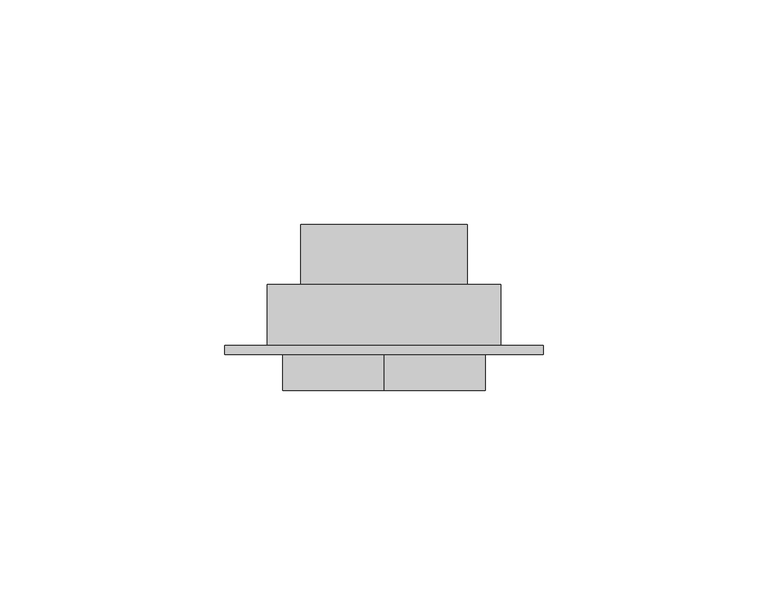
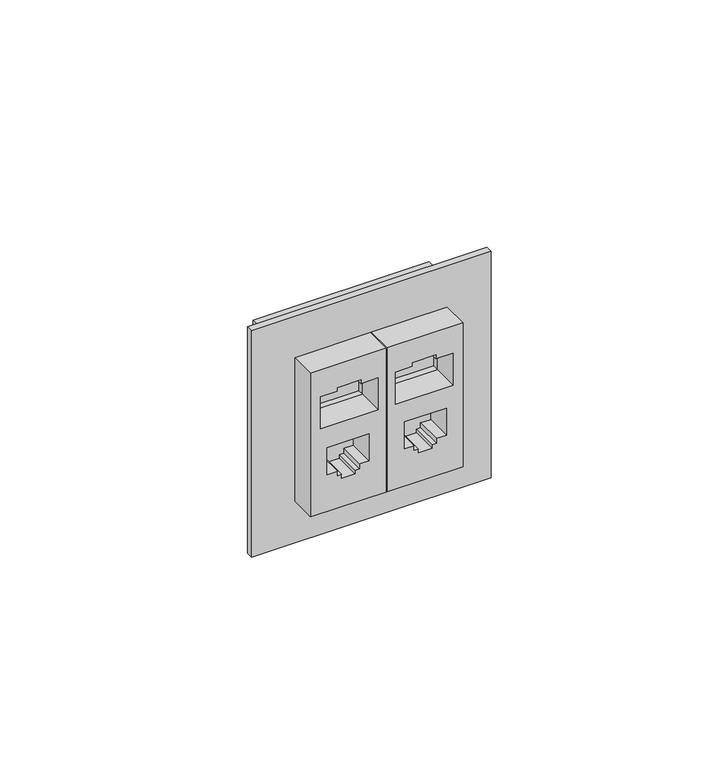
"""IFC4 building model written with IfcOpenShell, lengths in millimetres: proxy geometry."""

import ifcopenshell
import ifcopenshell.guid

model = None  # the IFC model being written
_history = None  # IfcOwnerHistory: only IFC2X3 demands one
_inside = {}  # id of a spatial element -> (the spatial element, [elements in it])
_under = {}  # id of a project, library or spatial element -> (it, [spatial elements below it])
_declared = {}  # id of a project -> (the project, [libraries it declares])
_typed = {}  # id of a type object -> (the type object, [elements of that type])
_made_of = {}  # id of a material, layer set ... -> (it, [elements and type objects made of it])


def new_model(schema):
    """Start an empty IFC model of exactly this schema.

    Asked for "IFC4X3", IfcOpenShell would pick the latest addendum, in which some entities
    have other attributes; the version numbers below select the first issue.
    IFC2X3 requires an IfcOwnerHistory on every rooted entity: one is made here for all.
    """
    global model, _history
    if schema == "IFC4X3":
        model = ifcopenshell.file(schema_version=(4, 3, 0, 0))
    else:
        model = ifcopenshell.file(schema=schema)
    _inside.clear()
    _under.clear()
    _declared.clear()
    _typed.clear()
    _made_of.clear()
    _history = None
    if model.schema == "IFC2X3":
        org = make("IfcOrganization", Name="unknown")
        user = make(
            "IfcPersonAndOrganization",
            ThePerson=make("IfcPerson", FamilyName="unknown"),
            TheOrganization=org,
        )
        app = make(
            "IfcApplication",
            ApplicationDeveloper=org,
            Version="unknown",
            ApplicationFullName="unknown",
            ApplicationIdentifier="unknown",
        )
        _history = make(
            "IfcOwnerHistory",
            OwningUser=user,
            OwningApplication=app,
            ChangeAction="ADDED",
            CreationDate=0,
        )
    return model


def make(cls, **values):
    """One entity of the class cls with the attributes given. An attribute that is None is left unset."""
    return model.create_entity(
        cls, **{name: value for name, value in values.items() if value is not None}
    )


def rooted(cls, **values):
    """An entity with a GlobalId (a new one), such as an element, a storey or a relation."""
    return make(cls, GlobalId=ifcopenshell.guid.new(), OwnerHistory=_history, **values)


def si_unit(unit_type, name, prefix=None):
    """IfcSIUnit, for example si_unit("LENGTHUNIT", "METRE", prefix="MILLI")."""
    return make("IfcSIUnit", UnitType=unit_type, Prefix=prefix, Name=name)


def assignment(units):
    """IfcUnitAssignment: the units of a project."""
    return None if units is None else make("IfcUnitAssignment", Units=units)


def point(xyz):
    """IfcCartesianPoint."""
    return None if xyz is None else make("IfcCartesianPoint", Coordinates=xyz)


def direction(xyz):
    """IfcDirection."""
    return None if xyz is None else make("IfcDirection", DirectionRatios=xyz)


def frame(location, z_axis=None, x_axis=None):
    """IfcAxis2Placement3D, a coordinate frame: its origin and axes. An axis left out is left unset."""
    return make(
        "IfcAxis2Placement3D",
        Location=point(location),
        Axis=direction(z_axis),
        RefDirection=direction(x_axis),
    )


def origin():
    """The frame at (0, 0, 0) with its axes left unset."""
    return frame((0.0, 0.0, 0.0))


def place(relative_to, where):
    """IfcLocalPlacement: puts the frame where relative to a parent placement (None: the world)."""
    return make(
        "IfcLocalPlacement", PlacementRelTo=relative_to, RelativePlacement=where
    )


def context(
    kind, dimensions, precision=None, world=None, true_north=None, identifier=None
):
    """IfcGeometricRepresentationContext, for example the 3D "Model" context."""
    return make(
        "IfcGeometricRepresentationContext",
        ContextIdentifier=identifier,
        ContextType=kind,
        CoordinateSpaceDimension=dimensions,
        Precision=precision,
        WorldCoordinateSystem=world,
        TrueNorth=true_north,
    )


def project(units=None, contexts=None):
    """IfcProject with its units and contexts."""
    return rooted(
        "IfcProject",
        Name="project",
        RepresentationContexts=contexts,
        UnitsInContext=assignment(units),
    )


def spatial(cls, under=None, at=None, **own):
    """A site, building, storey or space (cls), placed at a placement, below another one or the project."""
    s = rooted(cls, ObjectPlacement=at, **own)
    if under is not None:
        _under.setdefault(under.id(), (under, []))[1].append(s)
    return s


def polyline(points):
    """IfcPolyline through the points."""
    return make("IfcPolyline", Points=[point(p) for p in points])


def outline(outer, holes=None, kind="AREA"):
    """IfcArbitraryClosedProfileDef: a profile drawn as a closed curve; with holes, ...WithVoids."""
    if holes is None:
        return make("IfcArbitraryClosedProfileDef", ProfileType=kind, OuterCurve=outer)
    return make(
        "IfcArbitraryProfileDefWithVoids",
        ProfileType=kind,
        OuterCurve=outer,
        InnerCurves=holes,
    )


def extrude(swept, where, along, depth):
    """IfcExtrudedAreaSolid: the profile swept, set in the frame where, extruded along a direction by depth."""
    return make(
        "IfcExtrudedAreaSolid",
        SweptArea=swept,
        Position=where,
        ExtrudedDirection=direction(along),
        Depth=depth,
    )


def faces_of(points, faces, orient=None, outer=None):
    """IfcFace entities. A face is a list of loops; a loop is a list of indices into points, from 0.

    orient and outer hold one flag for each loop. By default every Orientation is true, the
    first loop of a face is its IfcFaceOuterBound and the others are IfcFaceBound.
    """
    made = []
    for i, loops in enumerate(faces):
        bounds = []
        for j, loop in enumerate(loops):
            is_outer = j == 0 if outer is None else outer[i][j]
            bounds.append(
                make(
                    "IfcFaceOuterBound" if is_outer else "IfcFaceBound",
                    Bound=make("IfcPolyLoop", Polygon=[points[k] for k in loop]),
                    Orientation=True if orient is None else orient[i][j],
                )
            )
        made.append(make("IfcFace", Bounds=bounds))
    return made


def faceted_brep(points, faces, orient=None, outer=None, voids=None):
    """IfcFacetedBrep: a solid bounded by flat faces; with voids (closed shells), ...WithVoids."""
    shared = [point(p) for p in points]
    hull = make("IfcClosedShell", CfsFaces=faces_of(shared, faces, orient, outer))
    if voids is None:
        return make("IfcFacetedBrep", Outer=hull)
    return make(
        "IfcFacetedBrepWithVoids",
        Outer=hull,
        Voids=[
            make(cls, CfsFaces=faces_of(shared, fs, o, b)) for cls, fs, o, b in voids
        ],
    )


def shape(context_of_items, identifier, shape_type, items):
    """IfcShapeRepresentation: the items that make up one representation, for example the "Body"."""
    return make(
        "IfcShapeRepresentation",
        ContextOfItems=context_of_items,
        RepresentationIdentifier=identifier,
        RepresentationType=shape_type,
        Items=items,
    )


def source(mapping_origin, context_of_items, identifier, shape_type, items):
    """IfcRepresentationMap: a shape defined once, which mapped items show again and again."""
    return make(
        "IfcRepresentationMap",
        MappingOrigin=mapping_origin,
        MappedRepresentation=shape(context_of_items, identifier, shape_type, items),
    )


def transform(
    local_origin,
    x_axis=None,
    y_axis=None,
    z_axis=None,
    scale=None,
    scale2=None,
    scale3=None,
    uniform=True,
):
    """IfcCartesianTransformationOperator3D, or its non-uniform kind. x_axis, y_axis, z_axis: its Axis1, 2, 3."""
    if uniform:
        return make(
            "IfcCartesianTransformationOperator3D",
            Axis1=direction(x_axis),
            Axis2=direction(y_axis),
            LocalOrigin=point(local_origin),
            Scale=scale,
            Axis3=direction(z_axis),
        )
    return make(
        "IfcCartesianTransformationOperator3DnonUniform",
        Axis1=direction(x_axis),
        Axis2=direction(y_axis),
        LocalOrigin=point(local_origin),
        Scale=scale,
        Axis3=direction(z_axis),
        Scale2=scale2,
        Scale3=scale3,
    )


def mapped(mapping_source, mapping_target):
    """IfcMappedItem: shows the shape of a source again, moved by a transform."""
    return make(
        "IfcMappedItem", MappingSource=mapping_source, MappingTarget=mapping_target
    )


def made_of(thing, what):
    """Note that an element or type object is made of a material, layer set ...; save() writes the relation."""
    if what is not None:
        _made_of.setdefault(what.id(), (what, []))[1].append(thing)
    return thing


def element(
    cls,
    number,
    at=None,
    inside=None,
    cuts=None,
    type_object=None,
    material=None,
    context=None,
    identifier="Body",
    shape_type=None,
    held_by="IfcProductDefinitionShape",
    body=None,
    shapes=None,
    **own,
):
    """One element of the class cls, such as IfcWall. Its Tag is "e" and its number.

    at: its placement. inside: the storey or other place that contains it. cuts: it is an
    opening in that element (IfcRelVoidsElement). A single representation is given by context,
    identifier, shape_type and body (its items); several are given by shapes. held_by: the class
    of the entity that holds the representations. save() writes the other relations.
    """
    e = rooted(cls, Tag="e%d" % number, ObjectPlacement=at, **own)
    if body is not None:
        shapes = [shape(context, identifier, shape_type, body)]
    if shapes is not None:
        e.Representation = make(held_by, Representations=shapes)
    if inside is not None:
        _inside.setdefault(inside.id(), (inside, []))[1].append(e)
    if cuts is not None:
        rooted(
            "IfcRelVoidsElement", RelatingBuildingElement=cuts, RelatedOpeningElement=e
        )
    if type_object is not None:
        _typed.setdefault(type_object.id(), (type_object, []))[1].append(e)
    return made_of(e, material)


def aggregate(whole, parts):
    """IfcRelAggregates: a whole, such as a stair, and the parts it consists of."""
    return rooted("IfcRelAggregates", RelatingObject=whole, RelatedObjects=parts)


def save(model, path):
    """Write the relations noted so far, then the file.

    IfcRelAggregates (storeys below a building ...), IfcRelContainedInSpatialStructure (elements
    in a storey), IfcRelDefinesByType, IfcRelAssociatesMaterial and IfcRelDeclares: one each for
    every whole, place, type object, material and project.
    """
    for whole, parts in _under.values():
        aggregate(whole, parts)
    for where, things in _inside.values():
        rooted(
            "IfcRelContainedInSpatialStructure",
            RelatedElements=things,
            RelatingStructure=where,
        )
    for kind, things in _typed.values():
        rooted("IfcRelDefinesByType", RelatedObjects=things, RelatingType=kind)
    for what, things in _made_of.values():
        rooted("IfcRelAssociatesMaterial", RelatedObjects=things, RelatingMaterial=what)
    for by, libraries in _declared.values():
        rooted("IfcRelDeclares", RelatingContext=by, RelatedDefinitions=libraries)
    model.write(path)


def electrical_fixtures_504ae2bb(model_context):
    return source(origin(), model_context, "Body", "SolidModel", [
        extrude(outline(polyline([(22.5, 0.0), (-22.5, 0.0), (-22.5, 22.5), (22.5, 22.5), (22.5, 0.0)]), holes=[polyline([(-10.97753, 5.2958415), (-2.538878, 5.2958415), (-2.538878, 17.6587753), (-10.97753, 17.6587753), (-10.97753, 14.6374966), (-12.4360784, 14.6374966), (-12.4360784, 13.3604874), (-13.6452738, 13.3604874), (-13.6452738, 9.3604874), (-12.4360784, 9.3604874), (-12.4360784, 8.0834782), (-10.97753, 8.0834782), (-10.97753, 5.2958415)]), polyline([(4.0, 19.6040808), (4.0, 2.6040808), (14.0, 2.6040808), (14.0, 7.6040808), (15.2, 7.6040808), (15.2, 14.6040808), (14.0, 14.6040808), (14.0, 19.6040808), (4.0, 19.6040808)])]), frame((0.0, -44.7, 0.0), z_axis=(0.0, 1.0, 0.0), x_axis=(0.0, 0.0, 1.0)), (0.0, 0.0, 1.0), 8.0),
        extrude(outline(polyline([(22.5, -22.5), (-22.5, -22.5), (-22.5, 0.0), (22.5, 0.0), (22.5, -22.5)]), holes=[polyline([(-2.538878, -5.2958415), (-10.97753, -5.2958415), (-10.97753, -8.0834782), (-12.4360784, -8.0834782), (-12.4360784, -9.3604874), (-13.6452738, -9.3604874), (-13.6452738, -13.3604874), (-12.4360784, -13.3604874), (-12.4360784, -14.6374966), (-10.97753, -14.6374966), (-10.97753, -17.6587753), (-2.538878, -17.6587753), (-2.538878, -5.2958415)]), polyline([(4.0, -2.6040808), (4.0, -19.6040808), (14.0, -19.6040808), (14.0, -14.6040808), (15.2, -14.6040808), (15.2, -7.6040808), (14.0, -7.6040808), (14.0, -2.6040808), (4.0, -2.6040808)])]), frame((0.0, -44.7, 0.0), z_axis=(0.0, 1.0, 0.0), x_axis=(0.0, 0.0, 1.0)), (0.0, 0.0, 1.0), 8.0),
        faceted_brep([(35.45, -34.7, -35.45), (-35.45, -34.7, -35.45), (-35.45, -34.7, 35.45), (35.45, -34.7, 35.45), (-26.0, -34.7, -26.0), (26.0, -34.7, -26.0), (26.0, -34.7, 26.0), (-26.0, -34.7, 26.0), (35.45, -36.7, -35.45), (35.45, -36.7, 35.45), (-35.45, -36.7, 35.45), (-35.45, -36.7, -35.45), (19.6040808, -36.7, 4.0), (2.6040808, -36.7, 4.0), (2.6040808, -36.7, 14.0), (7.6040808, -36.7, 14.0), (7.6040808, -36.7, 15.2), (14.6040808, -36.7, 15.2), (14.6040808, -36.7, 14.0), (19.6040808, -36.7, 14.0), (-2.6040808, -36.7, 4.0), (-19.6040808, -36.7, 4.0), (-19.6040808, -36.7, 14.0), (-14.6040808, -36.7, 14.0), (-14.6040808, -36.7, 15.2), (-7.6040808, -36.7, 15.2), (-7.6040808, -36.7, 14.0), (-2.6040808, -36.7, 14.0), (26.0, -21.2, -26.0), (-26.0, -21.2, -26.0), (-26.0, -21.2, 26.0), (26.0, -21.2, 26.0), (-18.5, -21.2, -15.5), (18.5, -21.2, -15.5), (18.5, -21.2, 4.0), (-18.5, -21.2, 4.0), (18.5, -7.8, -15.5), (-18.5, -7.8, -15.5), (-18.5, -7.8, 4.0), (18.5, -7.8, 4.0), (19.6040808, -34.7, 4.0), (19.6040808, -34.7, 14.0), (14.6040808, -34.7, 14.0), (14.6040808, -34.7, 15.2), (7.6040808, -34.7, 15.2), (7.6040808, -34.7, 14.0), (2.6040808, -34.7, 14.0), (2.6040808, -34.7, 4.0), (-19.6040808, -34.7, 4.0), (-2.6040808, -34.7, 4.0), (-2.6040808, -34.7, 14.0), (-7.6040808, -34.7, 14.0), (-7.6040808, -34.7, 15.2), (-14.6040808, -34.7, 15.2), (-14.6040808, -34.7, 14.0), (-19.6040808, -34.7, 14.0)], [[[0, 1, 2, 3], [4, 5, 6, 7]], [[8, 9, 10, 11], [12, 13, 14, 15, 16, 17, 18, 19], [20, 21, 22, 23, 24, 25, 26, 27]], [[1, 0, 8, 11]], [[2, 1, 11, 10]], [[3, 2, 10, 9]], [[0, 3, 9, 8]], [[28, 29, 30, 31], [32, 33, 34, 35]], [[29, 28, 5, 4]], [[30, 29, 4, 7]], [[31, 30, 7, 6]], [[28, 31, 6, 5]], [[36, 37, 38, 39]], [[37, 36, 33, 32]], [[38, 37, 32, 35]], [[39, 38, 35, 34]], [[36, 39, 34, 33]], [[40, 41, 42, 43, 44, 45, 46, 47]], [[40, 47, 13, 12]], [[47, 46, 14, 13]], [[46, 45, 15, 14]], [[45, 44, 16, 15]], [[44, 43, 17, 16]], [[43, 42, 18, 17]], [[42, 41, 19, 18]], [[41, 40, 12, 19]], [[48, 49, 50, 51, 52, 53, 54, 55]], [[49, 48, 21, 20]], [[50, 49, 20, 27]], [[51, 50, 27, 26]], [[52, 51, 26, 25]], [[53, 52, 25, 24]], [[54, 53, 24, 23]], [[55, 54, 23, 22]], [[48, 55, 22, 21]]]),
    ])


if __name__ == "__main__":
    model = new_model("IFC4")
    model_context = context("Model", 3, world=origin())
    ifc_project = project(units=[si_unit("LENGTHUNIT", "METRE", prefix="MILLI")], contexts=[model_context])
    site = spatial("IfcSite", under=ifc_project)
    building = spatial("IfcBuilding", under=site)
    placement = place(None, origin())
    electrical_fixtures_shape = electrical_fixtures_504ae2bb(model_context)
    element("IfcBuildingElementProxy", 1, Name="Electrical Fixtures", at=placement, inside=building, context=model_context, shape_type="MappedRepresentation", body=[
        mapped(electrical_fixtures_shape, transform((0.0, 0.0, 0.0), x_axis=(1.0, 0.0, 0.0), y_axis=(0.0, 1.0, 0.0), z_axis=(0.0, 0.0, 1.0))),
    ])
    save(model, "model.ifc")
